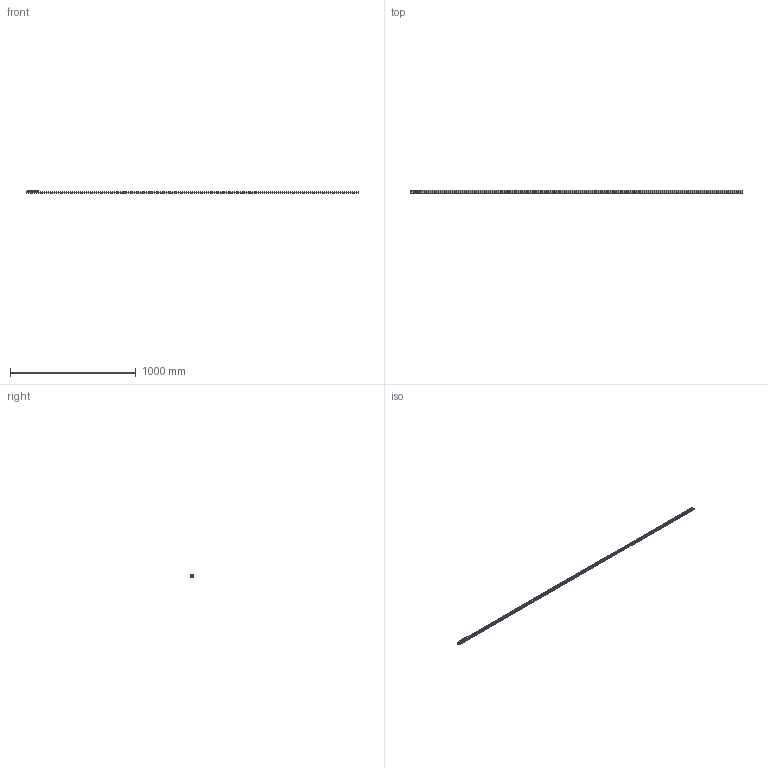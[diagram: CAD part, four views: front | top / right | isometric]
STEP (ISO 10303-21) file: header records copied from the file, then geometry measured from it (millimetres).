
FILE_DESCRIPTION( ( 'STEP AP214' ), '1' );
FILE_NAME( 'p:/temp/worker_22/temp/exporttempdir_3544_347_BzfTg/format_1/TEN26-2640-CEN26-92.stp', '2020-05-08T18:53:45', ( 'License CC BY-ND 4.0' ), ( 'CADENAS' ), ' ', 'PARTsolutions', ' ' );
FILE_SCHEMA( ( 'AUTOMOTIVE_DESIGN { 1 0 10303 214 1 1 1 1 }' ) );
Length unit declared in the file: millimetre
Products named in the file (6): TEN26-2640-CEN26-92; _TEN 26-2640; _CEN26-92_1; _RLN26(11.2_M5); _RLA26(11.2_M5); _LAN-26
Assembly tree (8 placements, depth 2):
  TEN26-2640-CEN26-92
    _TEN 26-2640
    _CEN26-92_1
    _RLN26(11.2_M5)  x2
    _RLA26(11.2_M5)
    _LAN-26  x3
Bounding box: 2640 x 26 x 22 mm (x, y, z)
Volume: 285895.6 mm3; surface area: 242257.9 mm2
Topology: 8 solids, 8 shells, 266 faces, 600 edges, 377 vertices
Faces by surface type: plane 131, cylinder 102, cone 24, bspline 9
Full cylindrical faces by diameter (mm): 2.5 x2, 4.134 x5, 4.5 x3, 5 x6, 6.5 x33, 9.3 x3, 11.2 x6, 11.6 x6, 15.7 x6, 16.7 x6
Entity records: 6644 total; most frequent: CARTESIAN_POINT 950, DIRECTION 910, ORIENTED_EDGE 666, AXIS2_PLACEMENT_3D 391, EDGE_LOOP 364, EDGE_CURVE 333, VERTEX_POINT 263, FACE_OUTER_BOUND 250
